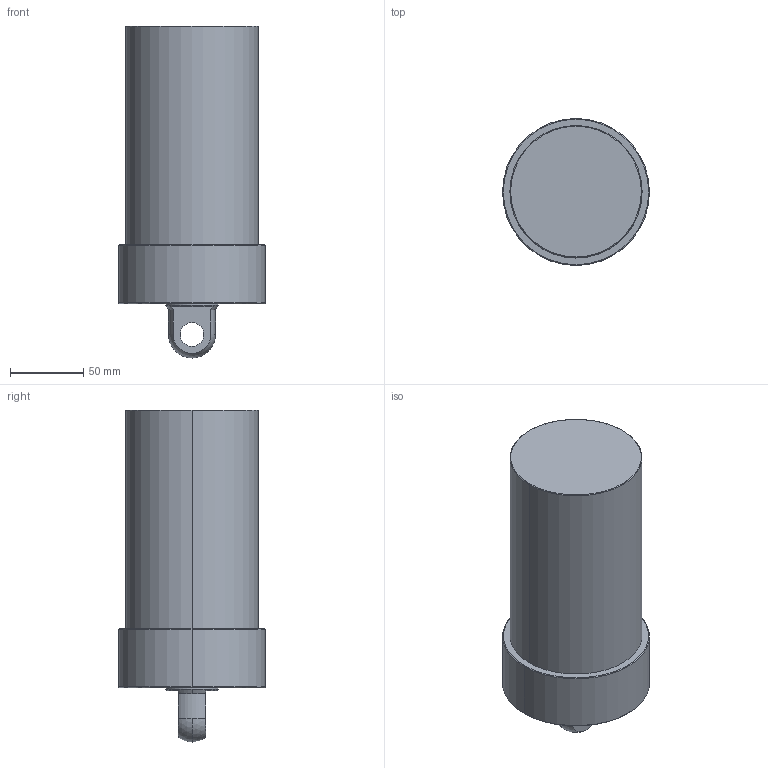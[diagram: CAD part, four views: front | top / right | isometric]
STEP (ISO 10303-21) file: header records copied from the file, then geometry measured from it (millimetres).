
FILE_DESCRIPTION (( 'STEP AP203' ), '1' );
FILE_NAME ('CLLU-090GP-105.STEP', '2020-01-15T01:46:58', ( '' ), ( '' ), 'SwSTEP 2.0', 'SolidWorks 2015', '' );
FILE_SCHEMA (( 'CONFIG_CONTROL_DESIGN' ));
Length unit declared in the file: millimetre
Products named in the file (1): CLLU-090GP-105
Bounding box: 100 x 100 x 226 mm (x, y, z)
Volume: 1271059.2 mm3; surface area: 76584.1 mm2
Topology: 1 solids, 1 shells, 58 faces, 131 edges, 75 vertices
Faces by surface type: cylinder 23, cone 18, plane 9, torus 6, sphere 2
Entity records: 1658 total; most frequent: DIRECTION 311, CARTESIAN_POINT 269, ORIENTED_EDGE 246, AXIS2_PLACEMENT_3D 133, EDGE_CURVE 123, VERTEX_POINT 75, CIRCLE 74, EDGE_LOOP 68
